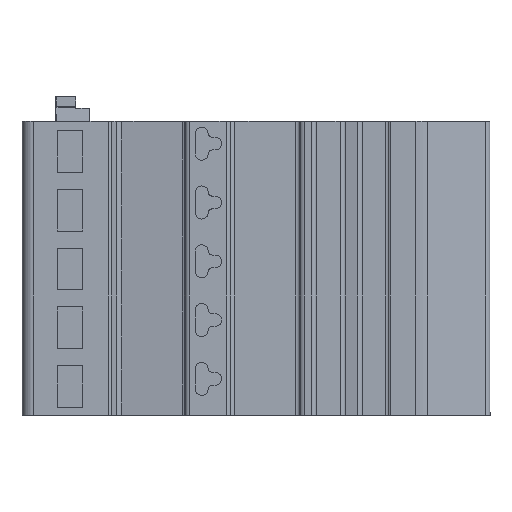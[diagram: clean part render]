
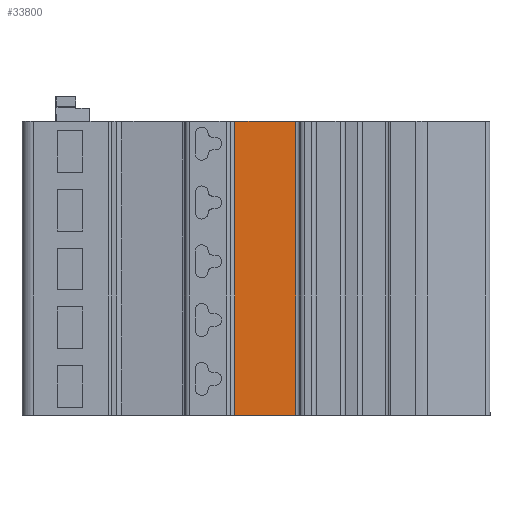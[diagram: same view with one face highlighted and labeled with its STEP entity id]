
A CAD part, left-side view. The second image highlights one B-rep face of the part: STEP entity #33800.
In plain terms, the highlighted planar face has unit normal (-1, 0, 0) as drawn and (-0.974, 0.225, 0) by its records, which use the part's own axes.
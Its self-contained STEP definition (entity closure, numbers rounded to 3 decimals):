
#24330=CARTESIAN_POINT('',(40.148,17.822,
-5.15));
#24340=VERTEX_POINT('',#24330);
#24370=CARTESIAN_POINT('',(40.148,17.822,
0.035));
#24380=DIRECTION('',(0.,0.,-1.));
#24390=VECTOR('',#24380,1.);
#24400=LINE('',#24370,#24390);
#24410=CARTESIAN_POINT('',(40.148,17.822,
20.6));
#24420=VERTEX_POINT('',#24410);
#24430=EDGE_CURVE('',#24420,#24340,#24400,.T.);
#33500=CARTESIAN_POINT('',(41.346,23.011,
-3.581));
#33510=DIRECTION('',(0.974,-0.225,
0.));
#33520=DIRECTION('',(-0.225,-0.974,
0.));
#33530=AXIS2_PLACEMENT_3D('',#33500,#33510,#33520);
#33540=PLANE('',#33530);
#33550=CARTESIAN_POINT('',(41.346,23.011,
-2.75));
#33560=DIRECTION('',(0.,0.,-1.));
#33570=VECTOR('',#33560,1.);
#33580=LINE('',#33550,#33570);
#33590=CARTESIAN_POINT('',(41.346,23.011,
20.6));
#33600=VERTEX_POINT('',#33590);
#33610=CARTESIAN_POINT('',(41.346,23.011,
-5.15));
#33620=VERTEX_POINT('',#33610);
#33630=EDGE_CURVE('',#33600,#33620,#33580,.T.);
#33640=ORIENTED_EDGE('',*,*,#33630,.T.);
#33650=CARTESIAN_POINT('',(36.033,0.,
20.6));
#33660=DIRECTION('',(-0.225,-0.974,
0.));
#33670=VECTOR('',#33660,1.);
#33680=LINE('',#33650,#33670);
#33690=EDGE_CURVE('',#33600,#24420,#33680,.T.);
#33700=ORIENTED_EDGE('',*,*,#33690,.F.);
#33710=ORIENTED_EDGE('',*,*,#24430,.F.);
#33720=CARTESIAN_POINT('',(36.033,0.,-5.15));
#33730=DIRECTION('',(0.225,0.974,
0.));
#33740=VECTOR('',#33730,1.);
#33750=LINE('',#33720,#33740);
#33760=EDGE_CURVE('',#24340,#33620,#33750,.T.);
#33770=ORIENTED_EDGE('',*,*,#33760,.F.);
#33780=EDGE_LOOP('',(#33770,#33710,#33700,#33640));
#33790=FACE_OUTER_BOUND('',#33780,.T.);
#33800=ADVANCED_FACE('',(#33790),#33540,.F.);
